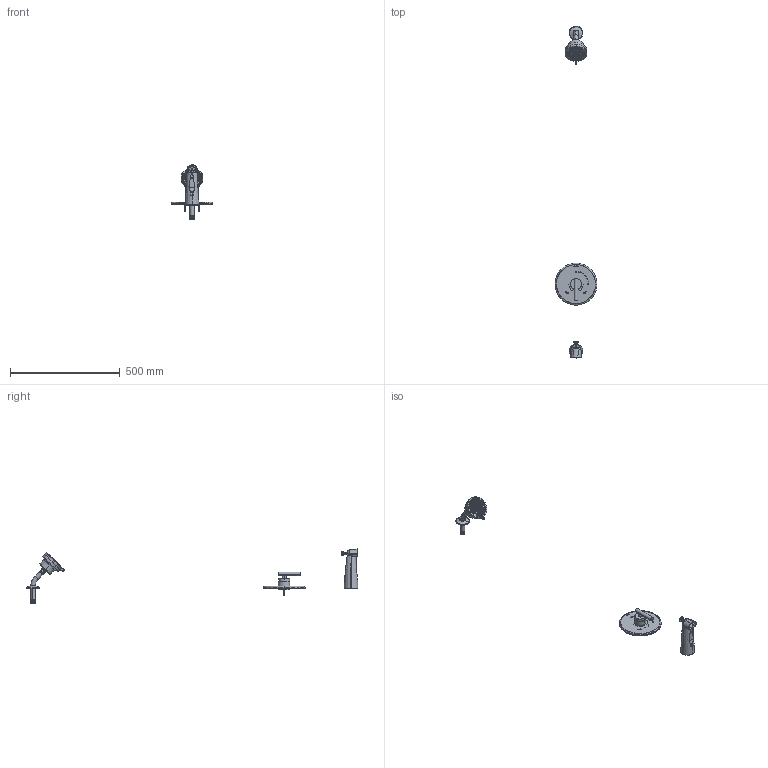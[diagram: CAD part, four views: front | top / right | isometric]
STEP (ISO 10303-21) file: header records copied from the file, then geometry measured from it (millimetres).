
FILE_DESCRIPTION (( 'STEP AP214' ), '1' );
FILE_NAME ('3592BTRM.STEP', '2025-01-15T07:08:31', ( '' ), ( '' ), 'SwSTEP 2.0', 'SolidWorks 2023', '' );
FILE_SCHEMA (( 'AUTOMOTIVE_DESIGN' ));
Length unit declared in the file: inch
Products named in the file (1): 3592BTRM
Bounding box: 190.5 x 1510.84 x 246.73 mm (x, y, z)
Surface area: 249934.4 mm2 (no closed solid volume)
Topology: 0 solids, 171 shells, 910 faces, 3816 edges, 3012 vertices
Faces by surface type: plane 280, cylinder 235, cone 170, bspline 160, torus 49, sphere 16
Entity records: 102241 total; most frequent: CARTESIAN_POINT 74008, ORIENTED_EDGE 5378, DIRECTION 4926, EDGE_CURVE 3807, VERTEX_POINT 3009, AXIS2_PLACEMENT_3D 1872, B_SPLINE_CURVE_WITH_KNOTS 1467, EDGE_LOOP 1206
